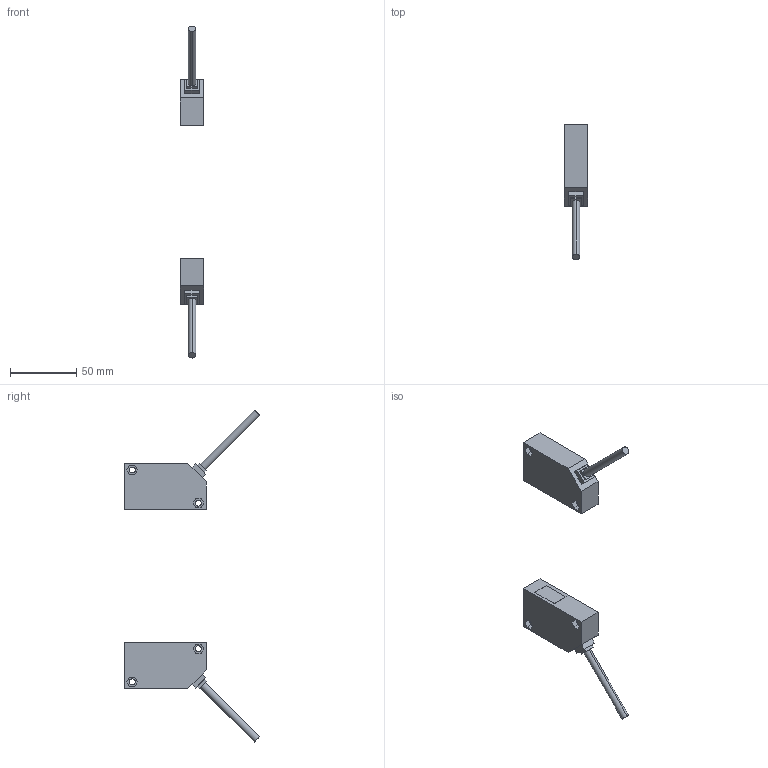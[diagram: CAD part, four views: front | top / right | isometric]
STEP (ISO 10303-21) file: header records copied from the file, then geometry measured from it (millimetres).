
FILE_DESCRIPTION (( 'STEP AP203' ), '1' );
FILE_NAME ('NX5-M10RA.STEP', '2005-10-25T04:33:04', ( '川島' ), ( ' ' ), 'SwSTEP 2.0', 'SolidWorks 2003240', '' );
FILE_SCHEMA (( 'CONFIG_CONTROL_DESIGN' ));
Length unit declared in the file: millimetre
Products named in the file (3): NX5-M10RAP_蹬怮椔; NX5-M10RA; NX5-M10RAD_蹬怮椔
Assembly tree (2 placements, depth 2):
  NX5-M10RA
    NX5-M10RAP_蹬怮椔
    NX5-M10RAD_蹬怮椔
Bounding box: 18 x 102.31 x 250.74 mm (x, y, z)
Volume: 76806.5 mm3; surface area: 18795.4 mm2
Topology: 2 solids, 2 shells, 128 faces, 312 edges, 208 vertices
Faces by surface type: plane 110, cylinder 18
Entity records: 4033 total; most frequent: CARTESIAN_POINT 653, ORIENTED_EDGE 624, DIRECTION 614, EDGE_CURVE 312, VECTOR 276, LINE 276, VERTEX_POINT 208, AXIS2_PLACEMENT_3D 169
